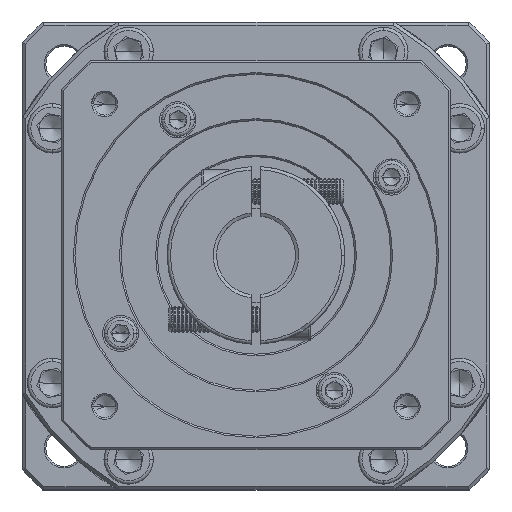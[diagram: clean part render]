
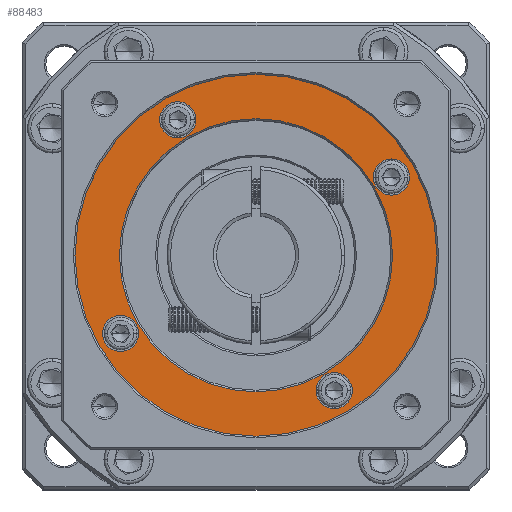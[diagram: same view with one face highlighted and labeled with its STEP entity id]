
A CAD part, top view. The second image highlights one B-rep face of the part: STEP entity #88483.
In plain terms, the highlighted planar face has unit normal (0, 0, 1).
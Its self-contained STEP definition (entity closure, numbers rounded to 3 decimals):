
#774 = CARTESIAN_POINT ( 'NONE',  ( -59.992, 110.241, -18.552 ) ) ;
#1791 = CARTESIAN_POINT ( 'NONE',  ( -59.992, 110.241, -18.552 ) ) ;
#2239 = AXIS2_PLACEMENT_3D ( 'NONE', #85765, #19279, #18324 ) ;
#2891 = DIRECTION ( 'NONE',  ( 0., -1., 0. ) ) ;
#3858 = ORIENTED_EDGE ( 'NONE', *, *, #94936, .T. ) ;
#3961 = PLANE ( 'NONE',  #132471 ) ;
#4799 = CIRCLE ( 'NONE', #64023, 5.5 ) ;
#6719 = EDGE_LOOP ( 'NONE', ( #123127, #112857 ) ) ;
#6882 = DIRECTION ( 'NONE',  ( 1., 0., 0. ) ) ;
#6953 = EDGE_CURVE ( 'NONE', #87204, #12575, #69921, .T. ) ;
#8515 = EDGE_CURVE ( 'NONE', #49630, #109166, #46247, .T. ) ;
#9414 = ORIENTED_EDGE ( 'NONE', *, *, #19552, .T. ) ;
#9826 = DIRECTION ( 'NONE',  ( 0., 0., -1. ) ) ;
#12575 = VERTEX_POINT ( 'NONE', #31841 ) ;
#16356 = FACE_BOUND ( 'NONE', #86244, .T. ) ;
#18324 = DIRECTION ( 'NONE',  ( 1., 0., 0. ) ) ;
#18444 = DIRECTION ( 'NONE',  ( 1., 0., 0. ) ) ;
#19279 = DIRECTION ( 'NONE',  ( 0., 0., 1. ) ) ;
#19552 = EDGE_CURVE ( 'NONE', #61836, #85988, #4799, .T. ) ;
#19847 = FACE_BOUND ( 'NONE', #6719, .T. ) ;
#20613 = VERTEX_POINT ( 'NONE', #125308 ) ;
#21224 = CARTESIAN_POINT ( 'NONE',  ( -54.492, 110.241, -18.552 ) ) ;
#21265 = CARTESIAN_POINT ( 'NONE',  ( -46.128, 86.491, -18.552 ) ) ;
#21876 = AXIS2_PLACEMENT_3D ( 'NONE', #89021, #98913, #44297 ) ;
#23822 = AXIS2_PLACEMENT_3D ( 'NONE', #108528, #141460, #75581 ) ;
#24534 = DIRECTION ( 'NONE',  ( 0., 0., -1. ) ) ;
#24954 = DIRECTION ( 'NONE',  ( 1., 0., 0. ) ) ;
#25475 = DIRECTION ( 'NONE',  ( 0., 0., -1. ) ) ;
#26019 = CARTESIAN_POINT ( 'NONE',  ( -77.378, 45.355, -18.552 ) ) ;
#27294 = CARTESIAN_POINT ( 'NONE',  ( -147.764, 62.741, -18.552 ) ) ;
#27427 = CIRCLE ( 'NONE', #119385, 5.5 ) ;
#28540 = ORIENTED_EDGE ( 'NONE', *, *, #66479, .T. ) ;
#31841 = CARTESIAN_POINT ( 'NONE',  ( -136.764, 62.741, -18.552 ) ) ;
#33369 = CIRCLE ( 'NONE', #23822, 55. ) ;
#33454 = CARTESIAN_POINT ( 'NONE',  ( -119.378, 127.627, -18.552 ) ) ;
#38552 = AXIS2_PLACEMENT_3D ( 'NONE', #1791, #25475, #92946 ) ;
#40337 = AXIS2_PLACEMENT_3D ( 'NONE', #67820, #57482, #136166 ) ;
#42665 = FACE_OUTER_BOUND ( 'NONE', #88964, .T. ) ;
#44297 = DIRECTION ( 'NONE',  ( 0., -1., 0. ) ) ;
#46247 = CIRCLE ( 'NONE', #60371, 5.5 ) ;
#49630 = VERTEX_POINT ( 'NONE', #21224 ) ;
#51558 = ORIENTED_EDGE ( 'NONE', *, *, #104497, .T. ) ;
#52239 = CARTESIAN_POINT ( 'NONE',  ( -101.128, 86.491, -18.552 ) ) ;
#52959 = DIRECTION ( 'NONE',  ( 0., 0., -1. ) ) ;
#54118 = CIRCLE ( 'NONE', #38552, 5.5 ) ;
#54337 = CARTESIAN_POINT ( 'NONE',  ( -101.128, 44.991, -18.552 ) ) ;
#57482 = DIRECTION ( 'NONE',  ( 0., 0., -1. ) ) ;
#58141 = CARTESIAN_POINT ( 'NONE',  ( -124.878, 127.627, -18.552 ) ) ;
#59336 = DIRECTION ( 'NONE',  ( 1., 0., 0. ) ) ;
#60371 = AXIS2_PLACEMENT_3D ( 'NONE', #774, #135698, #24954 ) ;
#61741 = EDGE_CURVE ( 'NONE', #20613, #141244, #98111, .T. ) ;
#61836 = VERTEX_POINT ( 'NONE', #94246 ) ;
#62687 = ORIENTED_EDGE ( 'NONE', *, *, #112887, .T. ) ;
#64023 = AXIS2_PLACEMENT_3D ( 'NONE', #58141, #136826, #69478 ) ;
#64949 = CARTESIAN_POINT ( 'NONE',  ( -156.128, 86.491, -18.552 ) ) ;
#65214 = EDGE_CURVE ( 'NONE', #83043, #96480, #112178, .T. ) ;
#66479 = EDGE_CURVE ( 'NONE', #120405, #82179, #94102, .T. ) ;
#67693 = AXIS2_PLACEMENT_3D ( 'NONE', #126828, #139905, #59336 ) ;
#67820 = CARTESIAN_POINT ( 'NONE',  ( -142.264, 62.741, -18.552 ) ) ;
#68274 = ORIENTED_EDGE ( 'NONE', *, *, #93617, .T. ) ;
#69478 = DIRECTION ( 'NONE',  ( 1., 0., 0. ) ) ;
#69921 = CIRCLE ( 'NONE', #40337, 5.5 ) ;
#70438 = CARTESIAN_POINT ( 'NONE',  ( -101.128, 86.491, -18.552 ) ) ;
#71120 = CARTESIAN_POINT ( 'NONE',  ( -82.878, 45.355, -18.552 ) ) ;
#72697 = ORIENTED_EDGE ( 'NONE', *, *, #75107, .T. ) ;
#73871 = DIRECTION ( 'NONE',  ( 0., 0., 1. ) ) ;
#75107 = EDGE_CURVE ( 'NONE', #109166, #49630, #54118, .T. ) ;
#75581 = DIRECTION ( 'NONE',  ( 1., 0., 0. ) ) ;
#76552 = EDGE_LOOP ( 'NONE', ( #3858, #9414 ) ) ;
#77183 = CIRCLE ( 'NONE', #121879, 5.5 ) ;
#78250 = CARTESIAN_POINT ( 'NONE',  ( -142.264, 62.741, -18.552 ) ) ;
#80080 = ORIENTED_EDGE ( 'NONE', *, *, #6953, .T. ) ;
#82179 = VERTEX_POINT ( 'NONE', #64949 ) ;
#83043 = VERTEX_POINT ( 'NONE', #54337 ) ;
#83420 = AXIS2_PLACEMENT_3D ( 'NONE', #70438, #104847, #2891 ) ;
#85765 = CARTESIAN_POINT ( 'NONE',  ( -101.128, 86.491, -18.552 ) ) ;
#85988 = VERTEX_POINT ( 'NONE', #33454 ) ;
#86244 = EDGE_LOOP ( 'NONE', ( #107406, #72697 ) ) ;
#87204 = VERTEX_POINT ( 'NONE', #27294 ) ;
#88483 = ADVANCED_FACE ( 'NONE', ( #42665, #19847, #16356, #98998, #111284, #109556 ), #3961, .T. ) ;
#88964 = EDGE_LOOP ( 'NONE', ( #28540, #68274 ) ) ;
#89021 = CARTESIAN_POINT ( 'NONE',  ( -101.128, 86.491, -18.552 ) ) ;
#89047 = CARTESIAN_POINT ( 'NONE',  ( -65.492, 110.241, -18.552 ) ) ;
#92946 = DIRECTION ( 'NONE',  ( 1., 0., 0. ) ) ;
#93617 = EDGE_CURVE ( 'NONE', #82179, #120405, #33369, .T. ) ;
#94102 = CIRCLE ( 'NONE', #2239, 55. ) ;
#94246 = CARTESIAN_POINT ( 'NONE',  ( -130.378, 127.627, -18.552 ) ) ;
#94936 = EDGE_CURVE ( 'NONE', #85988, #61836, #27427, .T. ) ;
#96151 = EDGE_LOOP ( 'NONE', ( #107256, #62687 ) ) ;
#96480 = VERTEX_POINT ( 'NONE', #98029 ) ;
#98029 = CARTESIAN_POINT ( 'NONE',  ( -101.128, 127.991, -18.552 ) ) ;
#98111 = CIRCLE ( 'NONE', #67693, 5.5 ) ;
#98913 = DIRECTION ( 'NONE',  ( 0., 0., -1. ) ) ;
#98998 = FACE_BOUND ( 'NONE', #96151, .T. ) ;
#103341 = DIRECTION ( 'NONE',  ( 1., 0., 0. ) ) ;
#104497 = EDGE_CURVE ( 'NONE', #12575, #87204, #77183, .T. ) ;
#104847 = DIRECTION ( 'NONE',  ( 0., 0., -1. ) ) ;
#107256 = ORIENTED_EDGE ( 'NONE', *, *, #61741, .T. ) ;
#107406 = ORIENTED_EDGE ( 'NONE', *, *, #8515, .T. ) ;
#108528 = CARTESIAN_POINT ( 'NONE',  ( -101.128, 86.491, -18.552 ) ) ;
#109166 = VERTEX_POINT ( 'NONE', #89047 ) ;
#109556 = FACE_BOUND ( 'NONE', #141096, .T. ) ;
#111284 = FACE_BOUND ( 'NONE', #76552, .T. ) ;
#112178 = CIRCLE ( 'NONE', #21876, 41.5 ) ;
#112857 = ORIENTED_EDGE ( 'NONE', *, *, #131353, .T. ) ;
#112887 = EDGE_CURVE ( 'NONE', #141244, #20613, #113537, .T. ) ;
#113537 = CIRCLE ( 'NONE', #127962, 5.5 ) ;
#119385 = AXIS2_PLACEMENT_3D ( 'NONE', #120390, #52959, #18444 ) ;
#120390 = CARTESIAN_POINT ( 'NONE',  ( -124.878, 127.627, -18.552 ) ) ;
#120405 = VERTEX_POINT ( 'NONE', #21265 ) ;
#121879 = AXIS2_PLACEMENT_3D ( 'NONE', #78250, #9826, #134808 ) ;
#123127 = ORIENTED_EDGE ( 'NONE', *, *, #65214, .T. ) ;
#125308 = CARTESIAN_POINT ( 'NONE',  ( -71.878, 45.355, -18.552 ) ) ;
#126828 = CARTESIAN_POINT ( 'NONE',  ( -77.378, 45.355, -18.552 ) ) ;
#127962 = AXIS2_PLACEMENT_3D ( 'NONE', #26019, #24534, #103341 ) ;
#131353 = EDGE_CURVE ( 'NONE', #96480, #83043, #138412, .T. ) ;
#132471 = AXIS2_PLACEMENT_3D ( 'NONE', #52239, #73871, #6882 ) ;
#134808 = DIRECTION ( 'NONE',  ( 1., 0., 0. ) ) ;
#135698 = DIRECTION ( 'NONE',  ( 0., 0., -1. ) ) ;
#136166 = DIRECTION ( 'NONE',  ( 1., 0., 0. ) ) ;
#136826 = DIRECTION ( 'NONE',  ( 0., 0., -1. ) ) ;
#138412 = CIRCLE ( 'NONE', #83420, 41.5 ) ;
#139905 = DIRECTION ( 'NONE',  ( 0., 0., -1. ) ) ;
#141096 = EDGE_LOOP ( 'NONE', ( #51558, #80080 ) ) ;
#141244 = VERTEX_POINT ( 'NONE', #71120 ) ;
#141460 = DIRECTION ( 'NONE',  ( 0., 0., 1. ) ) ;
